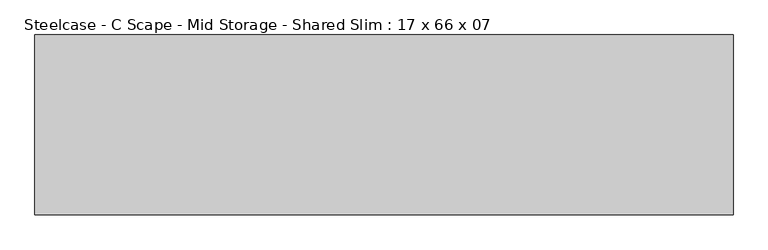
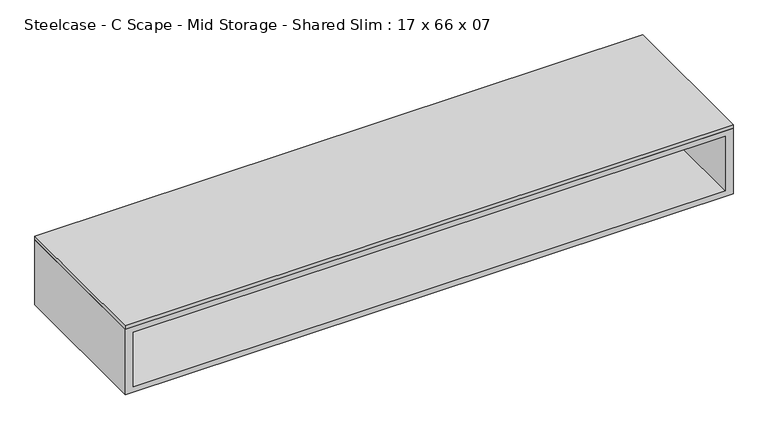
"""IFC4 building model written with IfcOpenShell, lengths in millimetres: furniture geometry, Steelcase - C Scape - Mid Storage - Shared Slim : 17 x 66 x 07."""

from ifc_helpers import new_model, si_unit, frame, origin, place, context, project, spatial, polyline, outline, extrude, source, transform, mapped, element, save


def steelcase_c_scape_mid_storage_shared_slim_17_x_66_x_07_9b99751c(model_context):
    return source(origin(), model_context, "Body", "SweptSolid", [
        extrude(outline(polyline([(1676.4, 215.9), (1676.4, -215.9), (0.0, -215.9), (0.0, 215.9), (1676.4, 215.9)])), frame((0.0, 0.0, 1028.7), z_axis=(0.0, 0.0, 1.0), x_axis=(1.0, 0.0, 0.0)), (0.0, 0.0, 1.0), 10.16),
        extrude(outline(polyline([(1654.302, 3.1751841), (1654.302, -3.1744283), (21.9711633, -3.1744283), (21.9711633, 3.1751841), (1654.302, 3.1751841)])), frame((0.0, 0.0, 853.4399855), z_axis=(0.0, 0.0, 1.0), x_axis=(1.0, 0.0, 0.0)), (0.0, 0.0, 1.0), 160.0200145),
        extrude(outline(polyline([(1028.7, 1676.4), (1028.7, 0.0), (838.2, 0.0), (838.2, 1676.4), (1028.7, 1676.4)]), holes=[polyline([(1013.46, 1654.302), (853.4399855, 1654.302), (853.4399855, 21.9711633), (1013.46, 21.9711633), (1013.46, 1654.302)])]), frame((0.0, -215.9, 0.0), z_axis=(0.0, 1.0, 0.0), x_axis=(0.0, 0.0, 1.0)), (0.0, 0.0, 1.0), 431.8),
    ])


if __name__ == "__main__":
    model = new_model("IFC4")
    model_context = context("Model", 3, world=origin())
    ifc_project = project(units=[si_unit("LENGTHUNIT", "METRE", prefix="MILLI")], contexts=[model_context])
    site = spatial("IfcSite", under=ifc_project)
    building = spatial("IfcBuilding", under=site)
    placement = place(None, origin())
    steelcase_c_scape_mid_storage_shared_slim_17_x_66_x_07_shape = steelcase_c_scape_mid_storage_shared_slim_17_x_66_x_07_9b99751c(model_context)
    element("IfcFurniture", 1, ObjectType="Steelcase - C Scape - Mid Storage - Shared Slim : 17 x 66 x 07", at=placement, inside=building, context=model_context, shape_type="MappedRepresentation", body=[
        mapped(steelcase_c_scape_mid_storage_shared_slim_17_x_66_x_07_shape, transform((0.0, 0.0, 0.0), x_axis=(1.0, 0.0, 0.0), y_axis=(0.0, 1.0, 0.0), z_axis=(0.0, 0.0, 1.0))),
    ])
    save(model, "model.ifc")
